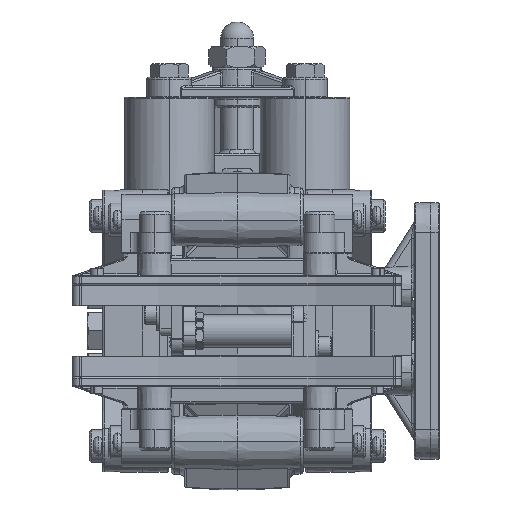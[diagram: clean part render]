
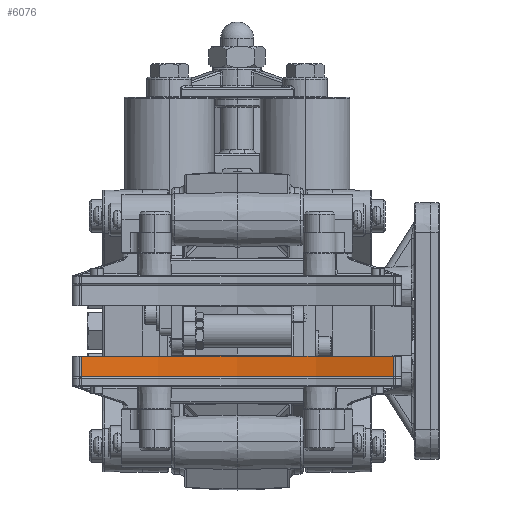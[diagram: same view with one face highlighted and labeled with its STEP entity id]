
A CAD part, left-side view. The second image highlights one B-rep face of the part: STEP entity #6076.
In plain terms, the highlighted cylindrical face has radius 203.2 mm (diameter 406.4 mm), a partial arc.
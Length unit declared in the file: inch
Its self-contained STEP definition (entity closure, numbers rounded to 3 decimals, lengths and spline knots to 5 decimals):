
#6076 = ADVANCED_FACE ( 'NONE', ( #72888 ), #69726, .F. ) ;
#6902 = CARTESIAN_POINT ( 'NONE',  ( -10., 0., -0.698 ) ) ;
#12726 = CARTESIAN_POINT ( 'NONE',  ( -2.35923, 2.37037, -0.385 ) ) ;
#14375 = CARTESIAN_POINT ( 'NONE',  ( -2.35923, -2.37037, -0.698 ) ) ;
#18645 = DIRECTION ( 'NONE',  ( 0., 0., 1. ) ) ;
#19555 = DIRECTION ( 'NONE',  ( 1., 0., 0. ) ) ;
#23555 = CARTESIAN_POINT ( 'NONE',  ( -10., 0., -0.698 ) ) ;
#27080 = CARTESIAN_POINT ( 'NONE',  ( -2.35923, -2.37037, -0.698 ) ) ;
#35084 = VECTOR ( 'NONE', #64811, 39.37008 ) ;
#43697 = CIRCLE ( 'NONE', #119896, 8. ) ;
#53458 = CARTESIAN_POINT ( 'NONE',  ( -2.35923, 2.37037, -0.698 ) ) ;
#56384 = AXIS2_PLACEMENT_3D ( 'NONE', #23555, #71215, #142871 ) ;
#61464 = ORIENTED_EDGE ( 'NONE', *, *, #113468, .F. ) ;
#62515 = ORIENTED_EDGE ( 'NONE', *, *, #121794, .F. ) ;
#63419 = CARTESIAN_POINT ( 'NONE',  ( -2.35923, -2.37037, -0.385 ) ) ;
#64084 = VERTEX_POINT ( 'NONE', #12726 ) ;
#64579 = ORIENTED_EDGE ( 'NONE', *, *, #76935, .T. ) ;
#64811 = DIRECTION ( 'NONE',  ( 0., 0., 1. ) ) ;
#66261 = ORIENTED_EDGE ( 'NONE', *, *, #88817, .T. ) ;
#69726 = CYLINDRICAL_SURFACE ( 'NONE', #56384, 8. ) ;
#70436 = AXIS2_PLACEMENT_3D ( 'NONE', #6902, #94322, #19555 ) ;
#71215 = DIRECTION ( 'NONE',  ( 0., 0., 1. ) ) ;
#72282 = LINE ( 'NONE', #14375, #35084 ) ;
#72390 = DIRECTION ( 'NONE',  ( 0., 0., -1. ) ) ;
#72888 = FACE_OUTER_BOUND ( 'NONE', #130234, .T. ) ;
#75205 = VERTEX_POINT ( 'NONE', #53458 ) ;
#76935 = EDGE_CURVE ( 'NONE', #75205, #145547, #151605, .T. ) ;
#88817 = EDGE_CURVE ( 'NONE', #145547, #153712, #72282, .T. ) ;
#94322 = DIRECTION ( 'NONE',  ( 0., 0., -1. ) ) ;
#101131 = LINE ( 'NONE', #120041, #134283 ) ;
#113468 = EDGE_CURVE ( 'NONE', #64084, #153712, #43697, .T. ) ;
#119896 = AXIS2_PLACEMENT_3D ( 'NONE', #147032, #72390, #159345 ) ;
#120041 = CARTESIAN_POINT ( 'NONE',  ( -2.35923, 2.37037, -0.698 ) ) ;
#121794 = EDGE_CURVE ( 'NONE', #75205, #64084, #101131, .T. ) ;
#130234 = EDGE_LOOP ( 'NONE', ( #61464, #62515, #64579, #66261 ) ) ;
#134283 = VECTOR ( 'NONE', #18645, 39.37008 ) ;
#142871 = DIRECTION ( 'NONE',  ( -1., 0., 0. ) ) ;
#145547 = VERTEX_POINT ( 'NONE', #27080 ) ;
#147032 = CARTESIAN_POINT ( 'NONE',  ( -10., 0., -0.385 ) ) ;
#151605 = CIRCLE ( 'NONE', #70436, 8. ) ;
#153712 = VERTEX_POINT ( 'NONE', #63419 ) ;
#159345 = DIRECTION ( 'NONE',  ( 1., 0., 0. ) ) ;
